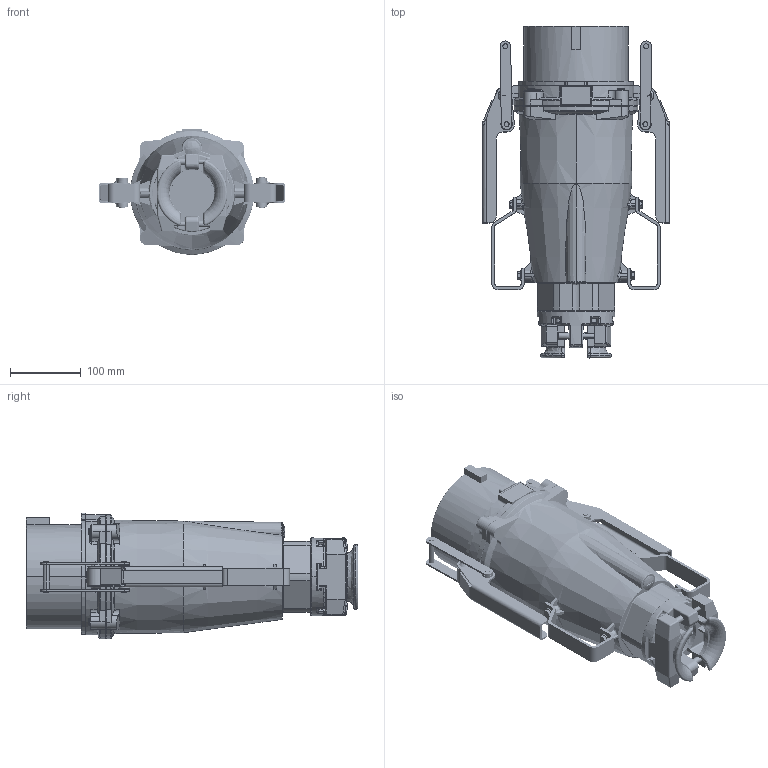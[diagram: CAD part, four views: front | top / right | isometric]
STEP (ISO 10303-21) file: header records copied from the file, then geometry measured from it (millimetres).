
FILE_DESCRIPTION((''),'2;1');
FILE_NAME('MC-S4_B-LINE_ASM','2019-08-22T10:03:40',('schlabachr'),('MENNEKES'),'CREO PARAMETRIC BY PTC INC, 2018260','CREO PARAMETRIC BY PTC INC, 2018260','');
FILE_SCHEMA(('AUTOMOTIVE_DESIGN { 1 0 10303 214 1 1 1 1 }'));
Length unit declared in the file: millimetre
Products named in the file (61): SICHERUNGSSCHEIBE_SCHNORR-6_MC-; D_04966-2_MC-S4-400_B-LINE; HEX_SCREW_GRADEC_DIN-R_S-4_MC-S; SICHERUNGSSCHEIBE_SCHNORR-22_MC; SOCKET_HEAD_CAP_SCREW_DIN-R_S-6; SICHERUNGSSCHEIBE_SCHNORR-21_MC; SICHERUNGSSCHEIBE_SCHNORR-10_MC; DEI7046-2-R2-4_MC-S4-400_B-LINE; D_04966-1_MC-S4-400_B-LINE; SOCKET_HEAD_CAP_SCREW_DI-154729; 04687-1_MC-S4-400_B-LINE; SICHERUNGSSCHEIBE_SCHNORR-7_MC-; SICHERUNGSSCHEIBE_SCHNORR-23_MC; SPRING_PIN_SLOTTED_LD_DIN-R_S-2; D_04965-2_MC-S4-400_B-LINE; SOCKET_HEAD_CAP_SCREW_DIN-R_S-7; SICHERUNGSSCHEIBE_SCHNORR-11_MC; SENKSCHEIBE-M5_ART_14229-1_MC-S; D_04743-1_MC-S4-400_B-LINE; SOCKET_HEAD_CAP_SCREW_DIN-21284; B_13559-2_MC-S4-400_B-LINE; SICHERUNGSSCHEIBE_SCHNORR-17_MC; SICHERUNGSSCHEIBE_RIP-LOCK-13_M; SPRING_PIN_SLOTTED_LD_DIN-R_S-3; D_04701-1_MC-S4-400_B-LINE; SOCKET_HEAD_CAP_SCREW_DIN-R_S-8; SICHERUNGSSCHEIBE_SCHNORR-12_MC; SENKSCHEIBE-M5_ART_14229-2_MC-S; D_04970-3_MC-S4-400_B-LINE; HEX_SCREW_GRADEC_DIN-R_S-1_MC-S; D_14800-1_MC-S4-400_B-LINE; SICHERUNGSSCHEIBE_SCHNORR-18_MC; SICHERUNGSSCHEIBE_RIP-LOCK-17_M; DEI7046-2-R2-1_MC-S4-400_B-LINE; D_04965-1_MC-S4-400_B-LINE; SOCKET_HEAD_CAP_SCREW_DI-154418; D_04970-4_MC-S4-400_B-LINE; SICHERUNGSSCHEIBE_SCHNORR-8_MC-; D_04970-1_MC-S4-400_B-LINE; HEX_SCREW_GRADEC_DIN-R_S-2_MC-S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
Assembly tree (60 placements, depth 3):
  MC-S4_B-LINE_ASM
    MC-S4-400_B-LINE_ASM
      SICHERUNGSSCHEIBE_SCHNORR-6_MC-
      D_04966-2_MC-S4-400_B-LINE
      HEX_SCREW_GRADEC_DIN-R_S-4_MC-S
      SICHERUNGSSCHEIBE_SCHNORR-22_MC
      SOCKET_HEAD_CAP_SCREW_DIN-R_S-6
      SICHERUNGSSCHEIBE_SCHNORR-21_MC
      SICHERUNGSSCHEIBE_SCHNORR-10_MC
      DEI7046-2-R2-4_MC-S4-400_B-LINE
      D_04966-1_MC-S4-400_B-LINE
      SOCKET_HEAD_CAP_SCREW_DI-154729
      04687-1_MC-S4-400_B-LINE
      SICHERUNGSSCHEIBE_SCHNORR-7_MC-
      SICHERUNGSSCHEIBE_SCHNORR-23_MC
      SPRING_PIN_SLOTTED_LD_DIN-R_S-2
      D_04965-2_MC-S4-400_B-LINE
      SOCKET_HEAD_CAP_SCREW_DIN-R_S-7
      SICHERUNGSSCHEIBE_SCHNORR-11_MC
      SENKSCHEIBE-M5_ART_14229-1_MC-S
      D_04743-1_MC-S4-400_B-LINE
      SOCKET_HEAD_CAP_SCREW_DIN-21284
      B_13559-2_MC-S4-400_B-LINE
      SICHERUNGSSCHEIBE_SCHNORR-17_MC
      SICHERUNGSSCHEIBE_RIP-LOCK-13_M
      SPRING_PIN_SLOTTED_LD_DIN-R_S-3
      D_04701-1_MC-S4-400_B-LINE
      SOCKET_HEAD_CAP_SCREW_DIN-R_S-8
      SICHERUNGSSCHEIBE_SCHNORR-12_MC
      SENKSCHEIBE-M5_ART_14229-2_MC-S
      D_04970-3_MC-S4-400_B-LINE
      HEX_SCREW_GRADEC_DIN-R_S-1_MC-S
      D_14800-1_MC-S4-400_B-LINE
      SICHERUNGSSCHEIBE_SCHNORR-18_MC
      SICHERUNGSSCHEIBE_RIP-LOCK-17_M
      DEI7046-2-R2-1_MC-S4-400_B-LINE
      D_04965-1_MC-S4-400_B-LINE
      SOCKET_HEAD_CAP_SCREW_DI-154418
      D_04970-4_MC-S4-400_B-LINE
      SICHERUNGSSCHEIBE_SCHNORR-8_MC-
      D_04970-1_MC-S4-400_B-LINE
      HEX_SCREW_GRADEC_DIN-R_S-2_MC-S
      SENKSCHEIBE-M5_ART_14229-3_MC-S
      SOCKET_HEAD_THIN_CAP_SCRE-20237
      SICHERUNGSSCHEIBE_SCHNORR-19_MC
      SICHERUNGSSCHEIBE_RIP-LOCK-18_M
      DEI7046-2-R2-2_MC-S4-400_B-LINE
      10309-1_MC-S4-400_B-LINE
      SOCKET_HEAD_CAP_SCREW_DIN-20926
      30963-1_MC-S4-400_B-LINE
      SICHERUNGSSCHEIBE_SCHNORR-9_MC-
      D_04970-2_MC-S4-400_B-LINE
      HEX_SCREW_GRADEC_DIN-R_S-3_MC-S
      SENKSCHEIBE-M5_ART_14229-4_MC-S
      SOCKET_HEAD_THIN_CAP_SCRE-87148
      SICHERUNGSSCHEIBE_SCHNORR-20_MC
      SICHERUNGSSCHEIBE_RIP-LOCK-16_M
      DEI7046-2-R2-3_MC-S4-400_B-LINE
      10309-2_MC-S4-400_B-LINE
      SOCKET_HEAD_CAP_SCREW_DIN-87802
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Bounding box: 263.51 x 468.5 x 177.5 mm (x, y, z)
Volume: 3329812.6 mm3; surface area: 999513.7 mm2
Topology: 59 solids, 59 shells, 5081 faces, 13888 edges, 8799 vertices
Faces by surface type: plane 1458, cylinder 1407, torus 979, cone 632, bspline 411, sphere 113, extrusion 81
Entity records: 282917 total; most frequent: CARTESIAN_POINT 75862, ORIENTED_EDGE 27332, DIRECTION 25606, PRESENTATION_STYLE_ASSIGNMENT 18356, STYLED_ITEM 13725, CURVE_STYLE 13666, EDGE_CURVE 13666, AXIS2_PLACEMENT_3D 10324
